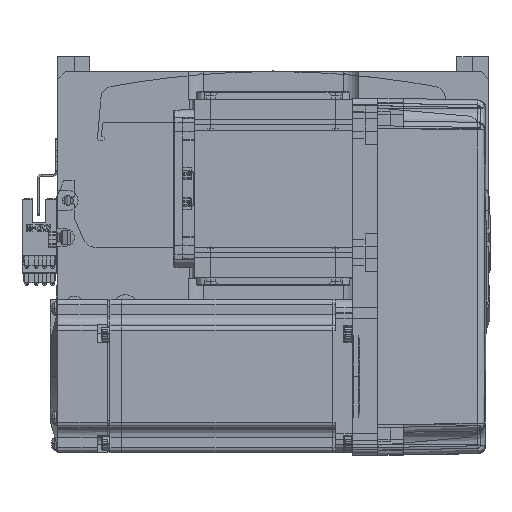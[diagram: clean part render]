
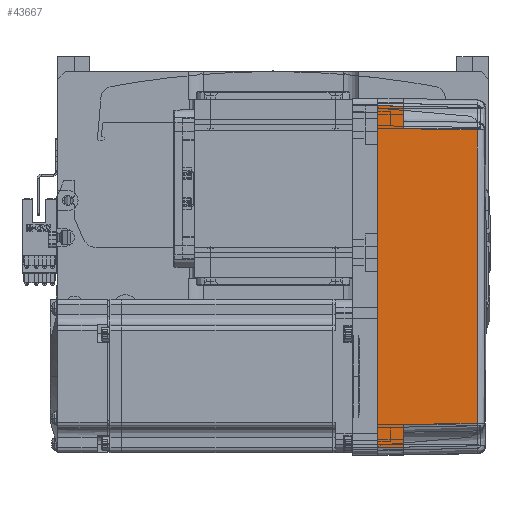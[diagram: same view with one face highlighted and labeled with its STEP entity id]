
A CAD part, top view. The second image highlights one B-rep face of the part: STEP entity #43667.
In plain terms, the highlighted planar face has unit normal (0.018, 0, 1) as drawn and (0, 1, 0.017) by its records, which use the part's own axes.
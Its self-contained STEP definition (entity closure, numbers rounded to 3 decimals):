
#1284 = EDGE_CURVE ( 'NONE', #62920, #46359, #49023, .T. ) ;
#1446 = EDGE_CURVE ( 'NONE', #69834, #15754, #41743, .T. ) ;
#1945 = DIRECTION ( 'NONE',  ( 0., 1., 0.017 ) ) ;
#3168 = DIRECTION ( 'NONE',  ( 0.017, -0.017, 1. ) ) ;
#4873 = CARTESIAN_POINT ( 'NONE',  ( -66.826, 35.825, 10. ) ) ;
#4904 = ORIENTED_EDGE ( 'NONE', *, *, #29213, .F. ) ;
#7209 = ORIENTED_EDGE ( 'NONE', *, *, #1284, .T. ) ;
#7810 = VERTEX_POINT ( 'NONE', #20888 ) ;
#7823 = VECTOR ( 'NONE', #3168, 1000. ) ;
#8055 = CARTESIAN_POINT ( 'NONE',  ( 0., 36., 0. ) ) ;
#8716 = VECTOR ( 'NONE', #57393, 1000. ) ;
#11770 = VECTOR ( 'NONE', #18385, 1000. ) ;
#12862 = B_SPLINE_CURVE_WITH_KNOTS ( 'NONE', 3,
 ( #47780, #25431, #31361, #72084 ),
 .UNSPECIFIED., .F., .F.,
 ( 4, 4 ),
 ( 0., 1. ),
 .UNSPECIFIED. ) ;
#15356 = CARTESIAN_POINT ( 'NONE',  ( 57.495, 35.32, 38.985 ) ) ;
#15520 = VERTEX_POINT ( 'NONE', #46039 ) ;
#15754 = VERTEX_POINT ( 'NONE', #39866 ) ;
#18385 = DIRECTION ( 'NONE',  ( 0.017, 0.017, -1. ) ) ;
#18760 = CARTESIAN_POINT ( 'NONE',  ( 70., 35.825, 10. ) ) ;
#19304 = PLANE ( 'NONE',  #24494 ) ;
#20888 = CARTESIAN_POINT ( 'NONE',  ( -58., 35.825, 10. ) ) ;
#21227 = EDGE_LOOP ( 'NONE', ( #30903, #51299, #63864, #46976, #32600, #7209, #4904, #74734 ) ) ;
#24494 = AXIS2_PLACEMENT_3D ( 'NONE', #31077, #1945, #53537 ) ;
#25213 = VECTOR ( 'NONE', #35702, 1000. ) ;
#25431 = CARTESIAN_POINT ( 'NONE',  ( -19.165, 35.316, 39.181 ) ) ;
#28907 = CARTESIAN_POINT ( 'NONE',  ( 67.001, 36.001, -0.052 ) ) ;
#29213 = EDGE_CURVE ( 'NONE', #15754, #46359, #52824, .T. ) ;
#30903 = ORIENTED_EDGE ( 'NONE', *, *, #44204, .T. ) ;
#31077 = CARTESIAN_POINT ( 'NONE',  ( 70., 36., 0. ) ) ;
#31282 = DIRECTION ( 'NONE',  ( 1., 0., 0. ) ) ;
#31361 = CARTESIAN_POINT ( 'NONE',  ( 19.165, 35.316, 39.181 ) ) ;
#31947 = EDGE_CURVE ( 'NONE', #75314, #7810, #49546, .T. ) ;
#32600 = ORIENTED_EDGE ( 'NONE', *, *, #54084, .T. ) ;
#34066 = VECTOR ( 'NONE', #31282, 1000. ) ;
#35702 = DIRECTION ( 'NONE',  ( 1., 0., 0. ) ) ;
#36337 = CARTESIAN_POINT ( 'NONE',  ( 57.495, 35.32, 38.985 ) ) ;
#39866 = CARTESIAN_POINT ( 'NONE',  ( 67., 36., 0. ) ) ;
#41743 = LINE ( 'NONE', #8055, #25213 ) ;
#43667 = ADVANCED_FACE ( 'NONE', ( #46458 ), #19304, .T. ) ;
#44204 = EDGE_CURVE ( 'NONE', #69834, #75314, #51844, .T. ) ;
#45434 = CARTESIAN_POINT ( 'NONE',  ( 70., 35.825, 10. ) ) ;
#46039 = CARTESIAN_POINT ( 'NONE',  ( -57.495, 35.32, 38.985 ) ) ;
#46359 = VERTEX_POINT ( 'NONE', #48001 ) ;
#46458 = FACE_OUTER_BOUND ( 'NONE', #21227, .T. ) ;
#46976 = ORIENTED_EDGE ( 'NONE', *, *, #63030, .T. ) ;
#47780 = CARTESIAN_POINT ( 'NONE',  ( -57.495, 35.32, 38.985 ) ) ;
#48001 = CARTESIAN_POINT ( 'NONE',  ( 66.826, 35.825, 10. ) ) ;
#48320 = CARTESIAN_POINT ( 'NONE',  ( -67., 36., 0. ) ) ;
#49023 = LINE ( 'NONE', #45434, #8716 ) ;
#49546 = LINE ( 'NONE', #18760, #34066 ) ;
#49897 = DIRECTION ( 'NONE',  ( 0.017, -0.017, 1. ) ) ;
#51299 = ORIENTED_EDGE ( 'NONE', *, *, #31947, .T. ) ;
#51844 = LINE ( 'NONE', #54204, #73620 ) ;
#52824 = LINE ( 'NONE', #28907, #69258 ) ;
#53537 = DIRECTION ( 'NONE',  ( 0., -0.017, 1. ) ) ;
#53572 = CARTESIAN_POINT ( 'NONE',  ( 58., 35.825, 10. ) ) ;
#54084 = EDGE_CURVE ( 'NONE', #56228, #62920, #72857, .T. ) ;
#54204 = CARTESIAN_POINT ( 'NONE',  ( -67., 36., 0. ) ) ;
#56228 = VERTEX_POINT ( 'NONE', #15356 ) ;
#57393 = DIRECTION ( 'NONE',  ( 1., 0., 0. ) ) ;
#62920 = VERTEX_POINT ( 'NONE', #53572 ) ;
#63030 = EDGE_CURVE ( 'NONE', #15520, #56228, #12862, .T. ) ;
#63864 = ORIENTED_EDGE ( 'NONE', *, *, #71376, .T. ) ;
#66974 = CARTESIAN_POINT ( 'NONE',  ( -58., 35.825, 10. ) ) ;
#69258 = VECTOR ( 'NONE', #69968, 1000. ) ;
#69834 = VERTEX_POINT ( 'NONE', #48320 ) ;
#69885 = LINE ( 'NONE', #66974, #7823 ) ;
#69968 = DIRECTION ( 'NONE',  ( -0.017, -0.017, 1. ) ) ;
#71376 = EDGE_CURVE ( 'NONE', #7810, #15520, #69885, .T. ) ;
#72084 = CARTESIAN_POINT ( 'NONE',  ( 57.495, 35.32, 38.985 ) ) ;
#72857 = LINE ( 'NONE', #36337, #11770 ) ;
#73620 = VECTOR ( 'NONE', #49897, 1000. ) ;
#74734 = ORIENTED_EDGE ( 'NONE', *, *, #1446, .F. ) ;
#75314 = VERTEX_POINT ( 'NONE', #4873 ) ;
